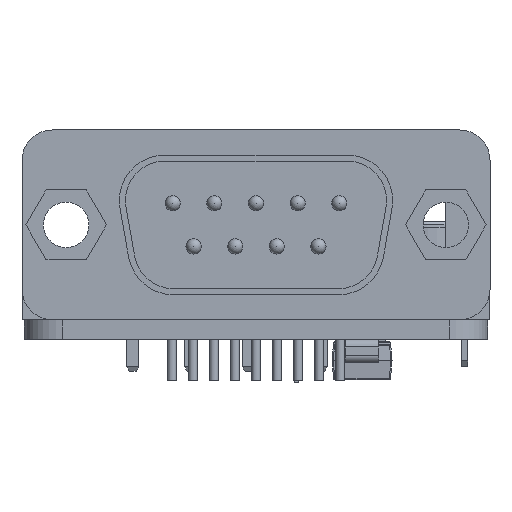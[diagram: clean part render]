
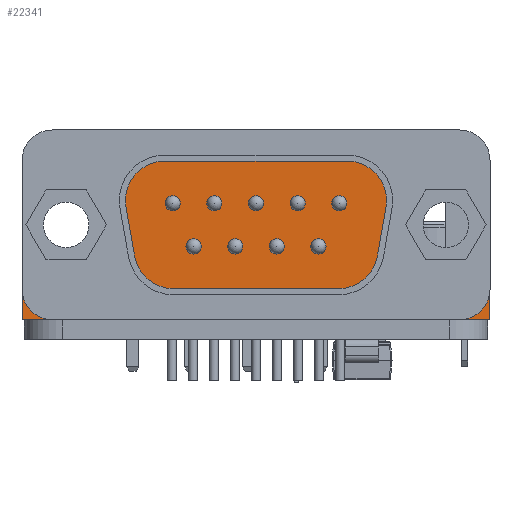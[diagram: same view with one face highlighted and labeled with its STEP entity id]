
A CAD part, front view. The second image highlights one B-rep face of the part: STEP entity #22341.
In plain terms, the highlighted planar face has unit normal (0, -1, 0).
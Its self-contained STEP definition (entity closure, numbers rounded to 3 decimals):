
#22155 = VERTEX_POINT('',#22156);
#22156 = CARTESIAN_POINT('',(315.41,159.3,
    0.));
#22164 = EDGE_CURVE('',#22165,#22155,#22167,.T.);
#22165 = VERTEX_POINT('',#22166);
#22166 = CARTESIAN_POINT('',(284.59,159.3,
    0.));
#22167 = LINE('',#22168,#22169);
#22168 = CARTESIAN_POINT('',(284.59,159.3,
    0.));
#22169 = VECTOR('',#22170,1.);
#22170 = DIRECTION('',(1.,0.,0.));
#22225 = VERTEX_POINT('',#22226);
#22226 = CARTESIAN_POINT('',(315.41,159.3,
    10.5));
#22232 = EDGE_CURVE('',#22225,#22155,#22233,.T.);
#22233 = LINE('',#22234,#22235);
#22234 = CARTESIAN_POINT('',(315.41,159.3,
    2.8));
#22235 = VECTOR('',#22236,1.);
#22236 = DIRECTION('',(0.,0.,-1.));
#22312 = EDGE_CURVE('',#22313,#22165,#22315,.T.);
#22313 = VERTEX_POINT('',#22314);
#22314 = CARTESIAN_POINT('',(284.59,159.3,
    10.5));
#22315 = LINE('',#22316,#22317);
#22316 = CARTESIAN_POINT('',(284.59,159.3,
    2.8));
#22317 = VECTOR('',#22318,1.);
#22318 = DIRECTION('',(0.,0.,-1.));
#22341 = ADVANCED_FACE('',(#22342,#22371,#22382),#22393,.F.);
#22342 = FACE_BOUND('',#22343,.T.);
#22343 = EDGE_LOOP('',(#22344,#22354,#22361,#22362,#22363,#22364));
#22344 = ORIENTED_EDGE('',*,*,#22345,.F.);
#22345 = EDGE_CURVE('',#22346,#22348,#22350,.T.);
#22346 = VERTEX_POINT('',#22347);
#22347 = CARTESIAN_POINT('',(286.59,159.3,
    12.5));
#22348 = VERTEX_POINT('',#22349);
#22349 = CARTESIAN_POINT('',(313.41,159.3,
    12.5));
#22350 = LINE('',#22351,#22352);
#22351 = CARTESIAN_POINT('',(284.59,159.3,
    12.5));
#22352 = VECTOR('',#22353,1.);
#22353 = DIRECTION('',(1.,0.,0.));
#22354 = ORIENTED_EDGE('',*,*,#22355,.T.);
#22355 = EDGE_CURVE('',#22346,#22313,#22356,.T.);
#22356 = CIRCLE('',#22357,2.);
#22357 = AXIS2_PLACEMENT_3D('',#22358,#22359,#22360);
#22358 = CARTESIAN_POINT('',(286.59,159.3,
    10.5));
#22359 = DIRECTION('',(0.,-1.,0.));
#22360 = DIRECTION('',(-1.,0.,0.));
#22361 = ORIENTED_EDGE('',*,*,#22312,.T.);
#22362 = ORIENTED_EDGE('',*,*,#22164,.T.);
#22363 = ORIENTED_EDGE('',*,*,#22232,.F.);
#22364 = ORIENTED_EDGE('',*,*,#22365,.T.);
#22365 = EDGE_CURVE('',#22225,#22348,#22366,.T.);
#22366 = CIRCLE('',#22367,2.);
#22367 = AXIS2_PLACEMENT_3D('',#22368,#22369,#22370);
#22368 = CARTESIAN_POINT('',(313.41,159.3,
    10.5));
#22369 = DIRECTION('',(0.,-1.,0.));
#22370 = DIRECTION('',(-1.,0.,0.));
#22371 = FACE_BOUND('',#22372,.F.);
#22372 = EDGE_LOOP('',(#22373));
#22373 = ORIENTED_EDGE('',*,*,#22374,.T.);
#22374 = EDGE_CURVE('',#22375,#22375,#22377,.T.);
#22375 = VERTEX_POINT('',#22376);
#22376 = CARTESIAN_POINT('',(289.,159.3,
    6.25));
#22377 = CIRCLE('',#22378,1.5);
#22378 = AXIS2_PLACEMENT_3D('',#22379,#22380,#22381);
#22379 = CARTESIAN_POINT('',(287.5,159.3,
    6.25));
#22380 = DIRECTION('',(0.,-1.,0.));
#22381 = DIRECTION('',(1.,0.,0.));
#22382 = FACE_BOUND('',#22383,.F.);
#22383 = EDGE_LOOP('',(#22384));
#22384 = ORIENTED_EDGE('',*,*,#22385,.T.);
#22385 = EDGE_CURVE('',#22386,#22386,#22388,.T.);
#22386 = VERTEX_POINT('',#22387);
#22387 = CARTESIAN_POINT('',(314.,159.3,
    6.25));
#22388 = CIRCLE('',#22389,1.5);
#22389 = AXIS2_PLACEMENT_3D('',#22390,#22391,#22392);
#22390 = CARTESIAN_POINT('',(312.5,159.3,
    6.25));
#22391 = DIRECTION('',(0.,-1.,0.));
#22392 = DIRECTION('',(1.,0.,0.));
#22393 = PLANE('',#22394);
#22394 = AXIS2_PLACEMENT_3D('',#22395,#22396,#22397);
#22395 = CARTESIAN_POINT('',(284.59,159.3,
    2.8));
#22396 = DIRECTION('',(0.,1.,0.));
#22397 = DIRECTION('',(-1.,0.,0.));
